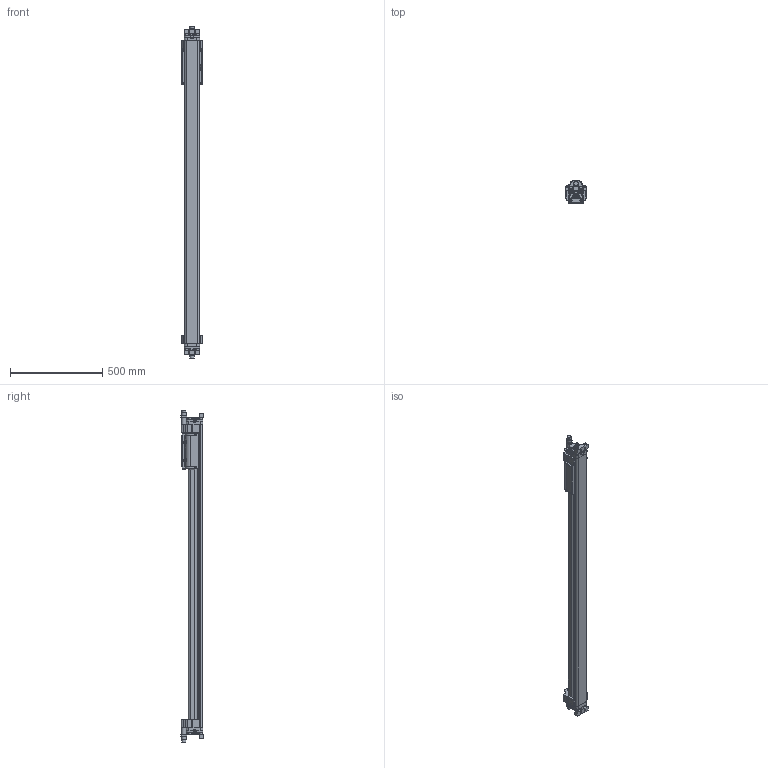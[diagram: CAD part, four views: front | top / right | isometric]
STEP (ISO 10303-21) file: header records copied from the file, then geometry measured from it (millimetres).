
FILE_DESCRIPTION (( 'STEP AP203' ), '1' );
FILE_NAME ('BC220_NP_SK55.000_BC2-492365-1.step', '2025-07-08T21:40:48', ( '' ), ( '' ), 'SwSTEP 2.0', 'SolidWorks 2024', '' );
FILE_SCHEMA (( 'CONFIG_CONTROL_DESIGN' ));
Length unit declared in the file: inch
Products named in the file (6): 05209072_BC220_NP_SK55.000_BC2-492365-1; 09201069_BC220_NP_SK55.000_BC2-492365-1; 05209823_BC220_NP_SK55.000_BC2-492365-1; 05209274_BC220_NP_SK55.000_BC2-492365-1; Base_BC220_NP_SK55.000_BC2-492365-1; BC220_NP_SK55.000_BC2-492365-1
Assembly tree (8 placements, depth 2):
  BC220_NP_SK55.000_BC2-492365-1
    05209823_BC220_NP_SK55.000_BC2-492365-1
    05209072_BC220_NP_SK55.000_BC2-492365-1  x2
    09201069_BC220_NP_SK55.000_BC2-492365-1  x2
    05209274_BC220_NP_SK55.000_BC2-492365-1  x2
    Base_BC220_NP_SK55.000_BC2-492365-1
Bounding box: 112.73 x 121.35 x 1799.72 mm (x, y, z)
Volume: 8469965.8 mm3; surface area: 1160308.2 mm2
Topology: 8 solids, 40 shells, 1995 faces, 4810 edges, 3060 vertices
Faces by surface type: plane 1024, cylinder 424, cone 229, bspline 160, torus 150, sphere 8
Full cylindrical faces by diameter (mm): 3.454 x1, 4.635 x2, 4.826 x2, 5.105 x4, 5.41 x4, 5.563 x2, 6.02 x2, 6.35 x4, 6.528 x18, 7.874 x4, 7.925 x2, 7.937 x3, 7.938 x13, 8 x4, 8.331 x10, 8.738 x4, 9.906 x4, 10.67 x8, 10.922 x2, 11.903 x2, 11.908 x12, 11.913 x2, 13.462 x8, 13.894 x4, 14.034 x2, 14.275 x3, 14.287 x2, 14.288 x2, 15.875 x2, 19 x8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
Entity records: 61207 total; most frequent: CARTESIAN_POINT 21208, ORIENTED_EDGE 7876, DIRECTION 7859, EDGE_CURVE 3938, AXIS2_PLACEMENT_3D 2814, VERTEX_POINT 2623, EDGE_LOOP 2245, VECTOR 2231
